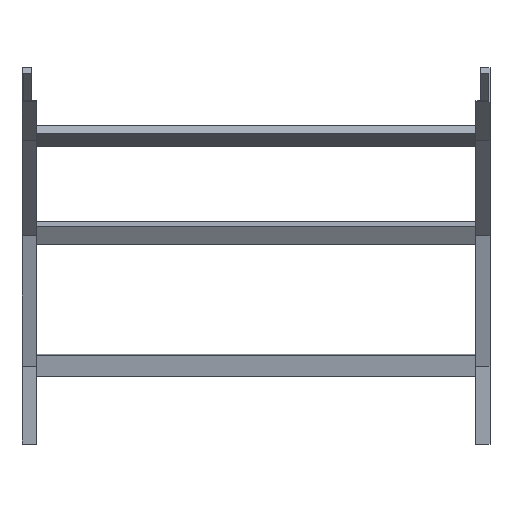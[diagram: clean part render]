
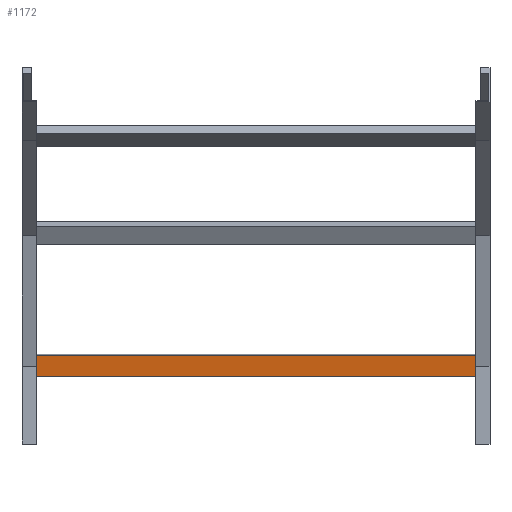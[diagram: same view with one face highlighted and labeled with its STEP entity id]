
A CAD part, front view. The second image highlights one B-rep face of the part: STEP entity #1172.
In plain terms, the highlighted planar face has unit normal (0, -0.991, -0.131) as drawn and (0, -1, 0) by its records, which use the part's own axes.
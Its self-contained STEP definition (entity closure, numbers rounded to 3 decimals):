
#41 = ORIENTED_EDGE ( 'NONE', *, *, #1267, .F. ) ;
#99 = EDGE_CURVE ( 'NONE', #147, #398, #1159, .T. ) ;
#147 = VERTEX_POINT ( 'NONE', #218 ) ;
#200 = VECTOR ( 'NONE', #441, 1000. ) ;
#218 = CARTESIAN_POINT ( 'NONE',  ( 448., 0., 20.25 ) ) ;
#269 = VECTOR ( 'NONE', #1227, 1000. ) ;
#289 = ORIENTED_EDGE ( 'NONE', *, *, #378, .F. ) ;
#325 = CARTESIAN_POINT ( 'NONE',  ( -448., 0., 20.25 ) ) ;
#359 = CARTESIAN_POINT ( 'NONE',  ( -448., 0., -20.25 ) ) ;
#378 = EDGE_CURVE ( 'NONE', #1536, #1570, #901, .T. ) ;
#398 = VERTEX_POINT ( 'NONE', #1373 ) ;
#441 = DIRECTION ( 'NONE',  ( -1., 0., 0. ) ) ;
#500 = DIRECTION ( 'NONE',  ( 0., 0., -1. ) ) ;
#592 = CARTESIAN_POINT ( 'NONE',  ( 448., 0., -20.25 ) ) ;
#723 = FACE_OUTER_BOUND ( 'NONE', #1264, .T. ) ;
#815 = DIRECTION ( 'NONE',  ( 0., 1., 0. ) ) ;
#839 = DIRECTION ( 'NONE',  ( -1., 0., 0. ) ) ;
#898 = CARTESIAN_POINT ( 'NONE',  ( 448., 0., 20.25 ) ) ;
#901 = LINE ( 'NONE', #929, #200 ) ;
#929 = CARTESIAN_POINT ( 'NONE',  ( 448., 0., -20.25 ) ) ;
#946 = CARTESIAN_POINT ( 'NONE',  ( 448., 0., 20.25 ) ) ;
#1159 = LINE ( 'NONE', #1473, #1441 ) ;
#1172 = ADVANCED_FACE ( 'NONE', ( #723 ), #1619, .F. ) ;
#1183 = ORIENTED_EDGE ( 'NONE', *, *, #1635, .T. ) ;
#1203 = AXIS2_PLACEMENT_3D ( 'NONE', #946, #815, #1502 ) ;
#1227 = DIRECTION ( 'NONE',  ( 0., 0., -1. ) ) ;
#1264 = EDGE_LOOP ( 'NONE', ( #1183, #289, #41, #1518 ) ) ;
#1267 = EDGE_CURVE ( 'NONE', #147, #1536, #1690, .T. ) ;
#1373 = CARTESIAN_POINT ( 'NONE',  ( -448., 0., 20.25 ) ) ;
#1441 = VECTOR ( 'NONE', #839, 1000. ) ;
#1473 = CARTESIAN_POINT ( 'NONE',  ( 448., 0., 20.25 ) ) ;
#1481 = LINE ( 'NONE', #325, #269 ) ;
#1502 = DIRECTION ( 'NONE',  ( 0., 0., 1. ) ) ;
#1518 = ORIENTED_EDGE ( 'NONE', *, *, #99, .T. ) ;
#1536 = VERTEX_POINT ( 'NONE', #592 ) ;
#1570 = VERTEX_POINT ( 'NONE', #359 ) ;
#1619 = PLANE ( 'NONE',  #1203 ) ;
#1635 = EDGE_CURVE ( 'NONE', #398, #1570, #1481, .T. ) ;
#1671 = VECTOR ( 'NONE', #500, 1000. ) ;
#1690 = LINE ( 'NONE', #898, #1671 ) ;
